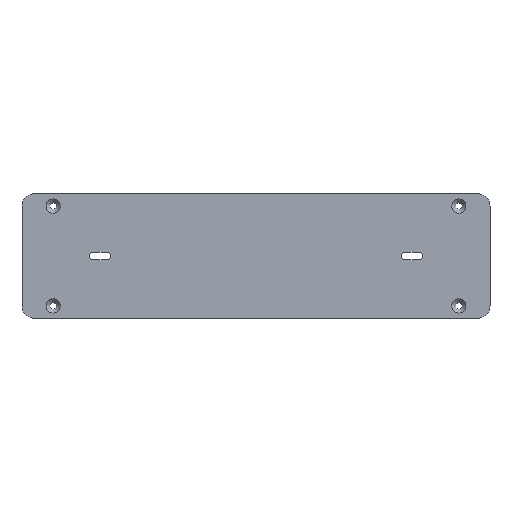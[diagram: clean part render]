
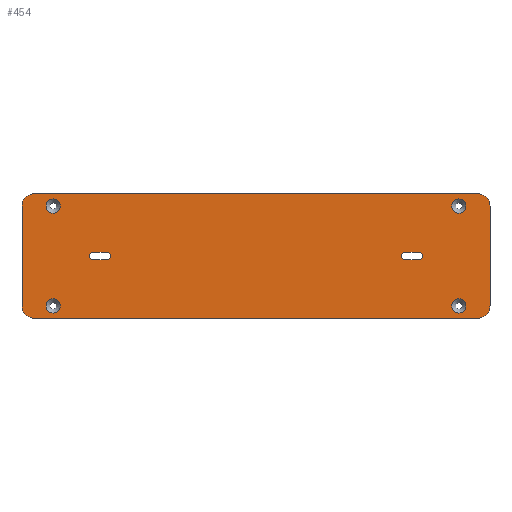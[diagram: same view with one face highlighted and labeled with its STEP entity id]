
A CAD part, top view. The second image highlights one B-rep face of the part: STEP entity #454.
In plain terms, the highlighted planar face has unit normal (0, 0, 1).
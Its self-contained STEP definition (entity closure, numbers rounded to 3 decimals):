
#36=CIRCLE('',#494,2.25);
#37=CIRCLE('',#495,2.25);
#38=CIRCLE('',#496,4.59);
#39=CIRCLE('',#497,4.59);
#40=CIRCLE('',#498,4.59);
#41=CIRCLE('',#499,4.59);
#42=CIRCLE('',#500,8.);
#43=CIRCLE('',#501,8.);
#44=CIRCLE('',#502,8.);
#45=CIRCLE('',#503,8.);
#46=CIRCLE('',#504,2.25);
#47=CIRCLE('',#505,2.25);
#64=ORIENTED_EDGE('',*,*,#184,.F.);
#65=ORIENTED_EDGE('',*,*,#185,.T.);
#66=ORIENTED_EDGE('',*,*,#186,.T.);
#67=ORIENTED_EDGE('',*,*,#187,.T.);
#68=ORIENTED_EDGE('',*,*,#188,.T.);
#69=ORIENTED_EDGE('',*,*,#189,.T.);
#70=ORIENTED_EDGE('',*,*,#190,.T.);
#71=ORIENTED_EDGE('',*,*,#191,.T.);
#72=ORIENTED_EDGE('',*,*,#192,.T.);
#73=ORIENTED_EDGE('',*,*,#193,.T.);
#74=ORIENTED_EDGE('',*,*,#194,.T.);
#75=ORIENTED_EDGE('',*,*,#195,.T.);
#76=ORIENTED_EDGE('',*,*,#196,.T.);
#77=ORIENTED_EDGE('',*,*,#197,.T.);
#78=ORIENTED_EDGE('',*,*,#198,.T.);
#79=ORIENTED_EDGE('',*,*,#199,.T.);
#80=ORIENTED_EDGE('',*,*,#200,.F.);
#81=ORIENTED_EDGE('',*,*,#201,.T.);
#82=ORIENTED_EDGE('',*,*,#202,.T.);
#83=ORIENTED_EDGE('',*,*,#203,.T.);
#184=EDGE_CURVE('',#244,#245,#288,.T.);
#185=EDGE_CURVE('',#244,#246,#36,.T.);
#186=EDGE_CURVE('',#246,#247,#289,.T.);
#187=EDGE_CURVE('',#247,#245,#37,.T.);
#188=EDGE_CURVE('',#248,#248,#38,.T.);
#189=EDGE_CURVE('',#249,#249,#39,.T.);
#190=EDGE_CURVE('',#250,#250,#40,.T.);
#191=EDGE_CURVE('',#251,#251,#41,.T.);
#192=EDGE_CURVE('',#252,#253,#290,.T.);
#193=EDGE_CURVE('',#253,#254,#42,.T.);
#194=EDGE_CURVE('',#254,#255,#291,.T.);
#195=EDGE_CURVE('',#255,#256,#43,.T.);
#196=EDGE_CURVE('',#256,#257,#292,.T.);
#197=EDGE_CURVE('',#257,#258,#44,.T.);
#198=EDGE_CURVE('',#258,#259,#293,.T.);
#199=EDGE_CURVE('',#259,#252,#45,.T.);
#200=EDGE_CURVE('',#260,#261,#294,.T.);
#201=EDGE_CURVE('',#260,#262,#46,.T.);
#202=EDGE_CURVE('',#262,#263,#295,.T.);
#203=EDGE_CURVE('',#263,#261,#47,.T.);
#244=VERTEX_POINT('',#692);
#245=VERTEX_POINT('',#693);
#246=VERTEX_POINT('',#695);
#247=VERTEX_POINT('',#697);
#248=VERTEX_POINT('',#700);
#249=VERTEX_POINT('',#702);
#250=VERTEX_POINT('',#704);
#251=VERTEX_POINT('',#706);
#252=VERTEX_POINT('',#708);
#253=VERTEX_POINT('',#709);
#254=VERTEX_POINT('',#711);
#255=VERTEX_POINT('',#713);
#256=VERTEX_POINT('',#715);
#257=VERTEX_POINT('',#717);
#258=VERTEX_POINT('',#719);
#259=VERTEX_POINT('',#721);
#260=VERTEX_POINT('',#724);
#261=VERTEX_POINT('',#725);
#262=VERTEX_POINT('',#727);
#263=VERTEX_POINT('',#729);
#288=LINE('',#691,#320);
#289=LINE('',#696,#321);
#290=LINE('',#707,#322);
#291=LINE('',#712,#323);
#292=LINE('',#716,#324);
#293=LINE('',#720,#325);
#294=LINE('',#723,#326);
#295=LINE('',#728,#327);
#320=VECTOR('',#551,1000.);
#321=VECTOR('',#554,1000.);
#322=VECTOR('',#565,1000.);
#323=VECTOR('',#568,1000.);
#324=VECTOR('',#571,1000.);
#325=VECTOR('',#574,1000.);
#326=VECTOR('',#577,1000.);
#327=VECTOR('',#580,1000.);
#352=EDGE_LOOP('',(#64,#65,#66,#67));
#353=EDGE_LOOP('',(#68));
#354=EDGE_LOOP('',(#69));
#355=EDGE_LOOP('',(#70));
#356=EDGE_LOOP('',(#71));
#357=EDGE_LOOP('',(#72,#73,#74,#75,#76,#77,#78,#79));
#358=EDGE_LOOP('',(#80,#81,#82,#83));
#398=FACE_BOUND('',#352,.T.);
#399=FACE_BOUND('',#353,.T.);
#400=FACE_BOUND('',#354,.T.);
#401=FACE_BOUND('',#355,.T.);
#402=FACE_BOUND('',#356,.T.);
#403=FACE_BOUND('',#357,.T.);
#404=FACE_BOUND('',#358,.T.);
#444=PLANE('',#493);
#454=ADVANCED_FACE('',(#398,#399,#400,#401,#402,#403,#404),#444,.T.);
#493=AXIS2_PLACEMENT_3D('',#690,#549,#550);
#494=AXIS2_PLACEMENT_3D('',#694,#552,#553);
#495=AXIS2_PLACEMENT_3D('',#698,#555,#556);
#496=AXIS2_PLACEMENT_3D('',#699,#557,#558);
#497=AXIS2_PLACEMENT_3D('',#701,#559,#560);
#498=AXIS2_PLACEMENT_3D('',#703,#561,#562);
#499=AXIS2_PLACEMENT_3D('',#705,#563,#564);
#500=AXIS2_PLACEMENT_3D('',#710,#566,#567);
#501=AXIS2_PLACEMENT_3D('',#714,#569,#570);
#502=AXIS2_PLACEMENT_3D('',#718,#572,#573);
#503=AXIS2_PLACEMENT_3D('',#722,#575,#576);
#504=AXIS2_PLACEMENT_3D('',#726,#578,#579);
#505=AXIS2_PLACEMENT_3D('',#730,#581,#582);
#549=DIRECTION('',(0.,0.,1.));
#550=DIRECTION('',(1.,0.,0.));
#551=DIRECTION('',(1.,0.,0.));
#552=DIRECTION('',(0.,0.,-1.));
#553=DIRECTION('',(0.,-1.,0.));
#554=DIRECTION('',(1.,0.,0.));
#555=DIRECTION('',(0.,0.,-1.));
#556=DIRECTION('',(0.,1.,0.));
#557=DIRECTION('',(0.,0.,-1.));
#558=DIRECTION('',(0.,1.,0.));
#559=DIRECTION('',(0.,0.,-1.));
#560=DIRECTION('',(0.,1.,0.));
#561=DIRECTION('',(0.,0.,-1.));
#562=DIRECTION('',(0.,1.,0.));
#563=DIRECTION('',(0.,0.,-1.));
#564=DIRECTION('',(0.,1.,0.));
#565=DIRECTION('',(-1.,0.,0.));
#566=DIRECTION('',(0.,0.,1.));
#567=DIRECTION('',(1.,0.,0.));
#568=DIRECTION('',(0.,-1.,0.));
#569=DIRECTION('',(0.,0.,1.));
#570=DIRECTION('',(1.,0.,0.));
#571=DIRECTION('',(1.,0.,0.));
#572=DIRECTION('',(0.,0.,1.));
#573=DIRECTION('',(1.,0.,0.));
#574=DIRECTION('',(0.,1.,0.));
#575=DIRECTION('',(0.,0.,1.));
#576=DIRECTION('',(1.,0.,0.));
#577=DIRECTION('',(1.,0.,0.));
#578=DIRECTION('',(0.,0.,-1.));
#579=DIRECTION('',(0.,-1.,0.));
#580=DIRECTION('',(1.,0.,0.));
#581=DIRECTION('',(0.,0.,-1.));
#582=DIRECTION('',(0.,1.,0.));
#690=CARTESIAN_POINT('',(0.,0.,3.));
#691=CARTESIAN_POINT('',(-104.5,-2.25,3.));
#692=CARTESIAN_POINT('',(-104.5,-2.25,3.));
#693=CARTESIAN_POINT('',(-95.5,-2.25,3.));
#694=CARTESIAN_POINT('',(-104.5,0.,3.));
#695=CARTESIAN_POINT('',(-104.5,2.25,3.));
#696=CARTESIAN_POINT('',(-104.5,2.25,3.));
#697=CARTESIAN_POINT('',(-95.5,2.25,3.));
#698=CARTESIAN_POINT('',(-95.5,0.,3.));
#699=CARTESIAN_POINT('',(130.,-32.,3.));
#700=CARTESIAN_POINT('',(130.,-27.41,3.));
#701=CARTESIAN_POINT('',(130.,32.,3.));
#702=CARTESIAN_POINT('',(130.,36.59,3.));
#703=CARTESIAN_POINT('',(-130.,32.,3.));
#704=CARTESIAN_POINT('',(-130.,36.59,3.));
#705=CARTESIAN_POINT('',(-130.,-32.,3.));
#706=CARTESIAN_POINT('',(-130.,-27.41,3.));
#707=CARTESIAN_POINT('',(150.,40.,3.));
#708=CARTESIAN_POINT('',(142.,40.,3.));
#709=CARTESIAN_POINT('',(-142.,40.,3.));
#710=CARTESIAN_POINT('',(-142.,32.,3.));
#711=CARTESIAN_POINT('',(-150.,32.,3.));
#712=CARTESIAN_POINT('',(-150.,40.,3.));
#713=CARTESIAN_POINT('',(-150.,-32.,3.));
#714=CARTESIAN_POINT('',(-142.,-32.,3.));
#715=CARTESIAN_POINT('',(-142.,-40.,3.));
#716=CARTESIAN_POINT('',(-150.,-40.,3.));
#717=CARTESIAN_POINT('',(142.,-40.,3.));
#718=CARTESIAN_POINT('',(142.,-32.,3.));
#719=CARTESIAN_POINT('',(150.,-32.,3.));
#720=CARTESIAN_POINT('',(150.,-40.,3.));
#721=CARTESIAN_POINT('',(150.,32.,3.));
#722=CARTESIAN_POINT('',(142.,32.,3.));
#723=CARTESIAN_POINT('',(95.5,-2.25,3.));
#724=CARTESIAN_POINT('',(95.5,-2.25,3.));
#725=CARTESIAN_POINT('',(104.5,-2.25,3.));
#726=CARTESIAN_POINT('',(95.5,0.,3.));
#727=CARTESIAN_POINT('',(95.5,2.25,3.));
#728=CARTESIAN_POINT('',(95.5,2.25,3.));
#729=CARTESIAN_POINT('',(104.5,2.25,3.));
#730=CARTESIAN_POINT('',(104.5,0.,3.));
